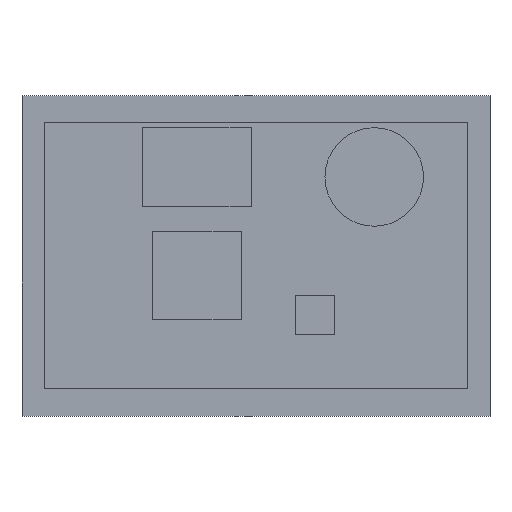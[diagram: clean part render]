
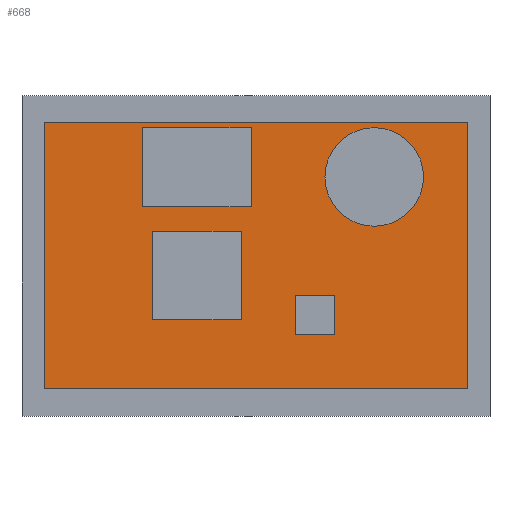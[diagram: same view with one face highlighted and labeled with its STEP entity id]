
A CAD part, top view. The second image highlights one B-rep face of the part: STEP entity #668.
In plain terms, the highlighted planar face has unit normal (0, 0, 1).
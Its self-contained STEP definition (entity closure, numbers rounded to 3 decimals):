
#539 = VERTEX_POINT('',#540);
#540 = CARTESIAN_POINT('',(-43.,-27.,8.));
#555 = VERTEX_POINT('',#556);
#556 = CARTESIAN_POINT('',(-43.,27.,8.));
#562 = EDGE_CURVE('',#539,#555,#563,.T.);
#563 = LINE('',#564,#565);
#564 = CARTESIAN_POINT('',(-43.,-27.,8.));
#565 = VECTOR('',#566,1.);
#566 = DIRECTION('',(-0.,1.,0.));
#579 = VERTEX_POINT('',#580);
#580 = CARTESIAN_POINT('',(43.,-27.,8.));
#595 = VERTEX_POINT('',#596);
#596 = CARTESIAN_POINT('',(43.,27.,8.));
#602 = EDGE_CURVE('',#579,#595,#603,.T.);
#603 = LINE('',#604,#605);
#604 = CARTESIAN_POINT('',(43.,-27.,8.));
#605 = VECTOR('',#606,1.);
#606 = DIRECTION('',(-0.,1.,0.));
#623 = EDGE_CURVE('',#539,#579,#624,.T.);
#624 = LINE('',#625,#626);
#625 = CARTESIAN_POINT('',(-43.,-27.,8.));
#626 = VECTOR('',#627,1.);
#627 = DIRECTION('',(1.,0.,-0.));
#645 = EDGE_CURVE('',#555,#595,#646,.T.);
#646 = LINE('',#647,#648);
#647 = CARTESIAN_POINT('',(-43.,27.,8.));
#648 = VECTOR('',#649,1.);
#649 = DIRECTION('',(1.,0.,-0.));
#668 = ADVANCED_FACE('',(#669),#675,.T.);
#669 = FACE_BOUND('',#670,.T.);
#670 = EDGE_LOOP('',(#671,#672,#673,#674));
#671 = ORIENTED_EDGE('',*,*,#562,.F.);
#672 = ORIENTED_EDGE('',*,*,#623,.T.);
#673 = ORIENTED_EDGE('',*,*,#602,.T.);
#674 = ORIENTED_EDGE('',*,*,#645,.F.);
#675 = PLANE('',#676);
#676 = AXIS2_PLACEMENT_3D('',#677,#678,#679);
#677 = CARTESIAN_POINT('',(-43.,-27.,8.));
#678 = DIRECTION('',(0.,0.,1.));
#679 = DIRECTION('',(1.,0.,-0.));
